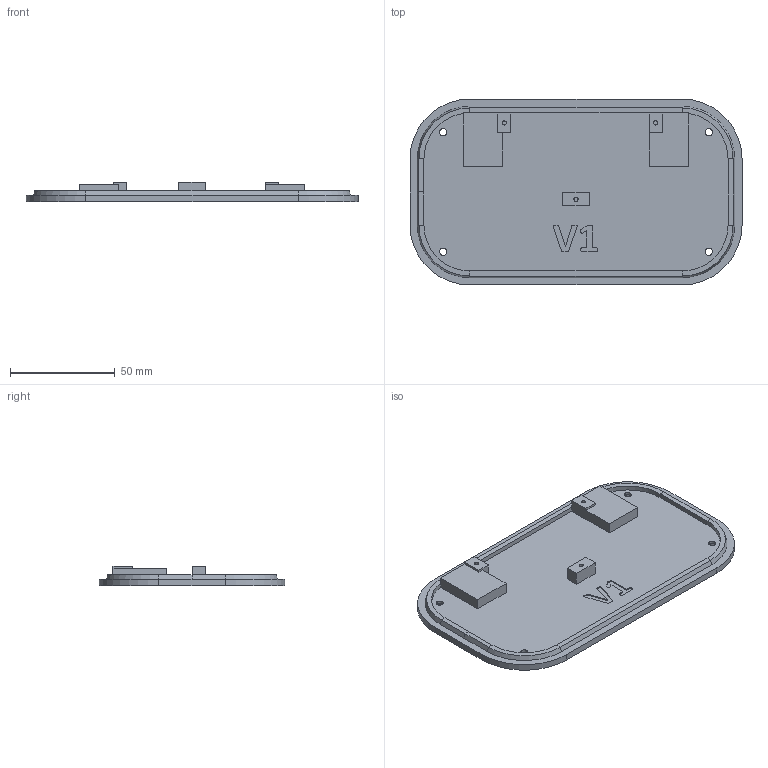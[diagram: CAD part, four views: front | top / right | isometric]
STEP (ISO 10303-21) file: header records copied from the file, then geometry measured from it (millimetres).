
FILE_DESCRIPTION (( 'STEP AP214' ), '1' );
FILE_NAME ('Back - Wall Clock V2.STEP', '2022-01-29T17:15:58', ( '' ), ( '' ), 'SwSTEP 2.0', 'SolidWorks 2019', '' );
FILE_SCHEMA (( 'AUTOMOTIVE_DESIGN' ));
Length unit declared in the file: inch
Products named in the file (1): Back - Wall Clock V2
Bounding box: 158.75 x 88.9 x 9.53 mm (x, y, z)
Volume: 48913.7 mm3; surface area: 32080 mm2
Topology: 1 solids, 1 shells, 135 faces, 346 edges, 222 vertices
Faces by surface type: plane 77, cylinder 32, bspline 14, cone 12
Entity records: 4676 total; most frequent: CARTESIAN_POINT 1366, ORIENTED_EDGE 692, DIRECTION 646, EDGE_CURVE 346, VECTOR 234, LINE 234, VERTEX_POINT 222, AXIS2_PLACEMENT_3D 206
